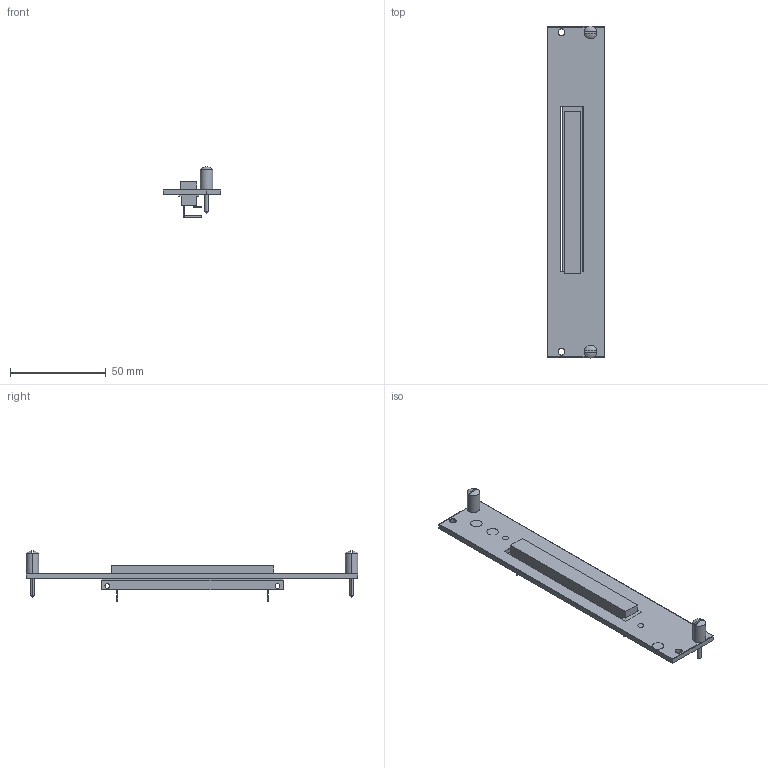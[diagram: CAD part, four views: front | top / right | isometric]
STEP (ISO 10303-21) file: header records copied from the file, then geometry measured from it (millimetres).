
FILE_DESCRIPTION((''),'2;1');
FILE_NAME('CU_SCXI-1161','2009-12-07T',('jjorden'),(''),'PRO/ENGINEER BY PARAMETRIC TECHNOLOGY CORPORATION, 2006080','PRO/ENGINEER BY PARAMETRIC TECHNOLOGY CORPORATION, 2006080','');
FILE_SCHEMA(('CONFIG_CONTROL_DESIGN'));
Length unit declared in the file: inch
Products named in the file (1): CU_SCXI-1161
Bounding box: 30.18 x 173.51 x 26.23 mm (x, y, z)
Volume: 21070.2 mm3; surface area: 15519.4 mm2
Topology: 1 solids, 1 shells, 135 faces, 356 edges, 226 vertices
Faces by surface type: plane 61, cylinder 60, cone 10, sphere 4
Entity records: 4364 total; most frequent: CARTESIAN_POINT 865, DIRECTION 752, ORIENTED_EDGE 704, EDGE_CURVE 352, AXIS2_PLACEMENT_3D 281, VERTEX_POINT 226, VECTOR 190, LINE 190
